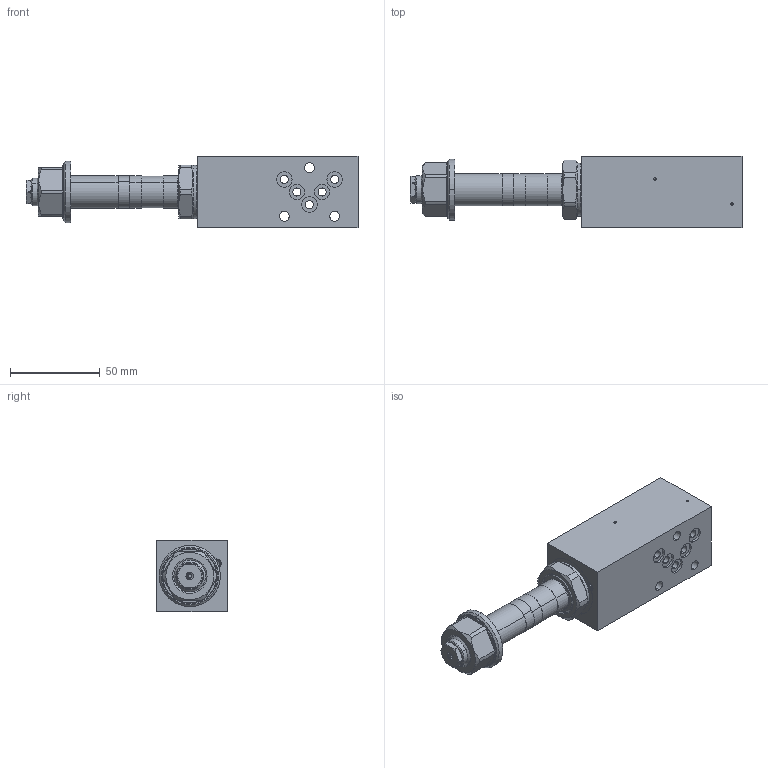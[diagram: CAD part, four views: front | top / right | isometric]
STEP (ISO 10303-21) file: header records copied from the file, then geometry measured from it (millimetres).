
FILE_DESCRIPTION (( 'STEP AP214' ), '1' );
FILE_NAME ('B.BSA04-A.STEP', '2017-03-23T15:00:15', ( '' ), ( '' ), 'SwSTEP 2.0', 'SolidWorks 2016', '' );
FILE_SCHEMA (( 'AUTOMOTIVE_DESIGN' ));
Length unit declared in the file: millimetre
Products named in the file (1): B.BSA04-A
Bounding box: 184.8 x 39.5 x 40 mm (x, y, z)
Volume: 170566.3 mm3; surface area: 32723 mm2
Topology: 2 solids, 2 shells, 259 faces, 631 edges, 397 vertices
Faces by surface type: cylinder 89, plane 73, cone 67, torus 22, bspline 6, sphere 2
Entity records: 10850 total; most frequent: CARTESIAN_POINT 1863, DIRECTION 1369, ORIENTED_EDGE 1254, EDGE_CURVE 627, AXIS2_PLACEMENT_3D 573, VERTEX_POINT 397, CIRCLE 319, EDGE_LOOP 302
